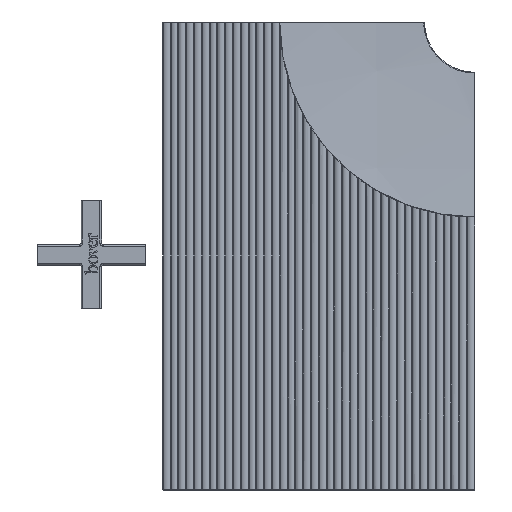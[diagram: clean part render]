
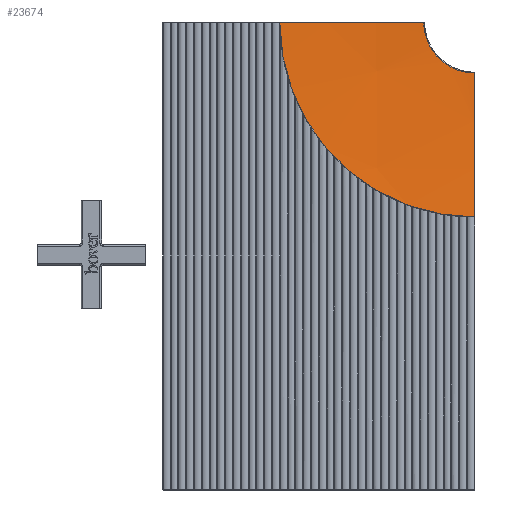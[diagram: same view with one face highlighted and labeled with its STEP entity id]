
A CAD part, front view. The second image highlights one B-rep face of the part: STEP entity #23674.
In plain terms, the highlighted spherical face has radius 715.727 mm.
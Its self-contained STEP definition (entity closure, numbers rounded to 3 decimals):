
#719 = DIRECTION ( 'NONE',  ( -1., 0., 0. ) ) ;
#1089 = ORIENTED_EDGE ( 'NONE', *, *, #32123, .T. ) ;
#1152 = CARTESIAN_POINT ( 'NONE',  ( -24.998, 15., -149.5 ) ) ;
#2652 = CARTESIAN_POINT ( 'NONE',  ( 70.678, 4.749, -135.312 ) ) ;
#2849 = CARTESIAN_POINT ( 'NONE',  ( 91.169, 4.749, -118.483 ) ) ;
#3048 = CARTESIAN_POINT ( 'NONE',  ( 74.07, 4.749, -130.026 ) ) ;
#3244 = CARTESIAN_POINT ( 'NONE',  ( 97.385, 4.749, -117.309 ) ) ;
#5162 = CARTESIAN_POINT ( 'NONE',  ( 99.5, 4.749, -117.277 ) ) ;
#5350 = FACE_OUTER_BOUND ( 'NONE', #16533, .T. ) ;
#5633 = CARTESIAN_POINT ( 'NONE',  ( 82.125, 4.749, -122.581 ) ) ;
#6027 = CARTESIAN_POINT ( 'NONE',  ( 90.664, 4.749, -118.628 ) ) ;
#7934 = CARTESIAN_POINT ( 'NONE',  ( 100., 15., -150.003 ) ) ;
#8610 = CARTESIAN_POINT ( 'NONE',  ( 83.475, 4.749, -121.746 ) ) ;
#8805 = CARTESIAN_POINT ( 'NONE',  ( 67.544, 4.749, -145.307 ) ) ;
#9204 = CARTESIAN_POINT ( 'NONE',  ( 74.397, 4.749, -129.609 ) ) ;
#9405 = CARTESIAN_POINT ( 'NONE',  ( 69.462, 4.749, -138.221 ) ) ;
#9517 = CARTESIAN_POINT ( 'NONE',  ( 99.5, 15., -25.005 ) ) ;
#9828 = EDGE_CURVE ( 'NONE', #31909, #38245, #38322, .T. ) ;
#10277 = EDGE_CURVE ( 'NONE', #23612, #38478, #38274, .T. ) ;
#10919 = DIRECTION ( 'NONE',  ( 0., 0., 1. ) ) ;
#11976 = CARTESIAN_POINT ( 'NONE',  ( 99.5, 4.749, -117.277 ) ) ;
#12177 = CARTESIAN_POINT ( 'NONE',  ( 73.44, 4.749, -130.871 ) ) ;
#12677 = ORIENTED_EDGE ( 'NONE', *, *, #9828, .T. ) ;
#13683 = DIRECTION ( 'NONE',  ( 0., 1., 0. ) ) ;
#13969 = DIRECTION ( 'NONE',  ( 0., 0., -1. ) ) ;
#14084 = DIRECTION ( 'NONE',  ( 1., 0., 0. ) ) ;
#14538 = ORIENTED_EDGE ( 'NONE', *, *, #15986, .T. ) ;
#14743 = CARTESIAN_POINT ( 'NONE',  ( 76.111, 4.749, -127.607 ) ) ;
#14937 = CARTESIAN_POINT ( 'NONE',  ( 75.404, 4.749, -128.384 ) ) ;
#15594 = AXIS2_PLACEMENT_3D ( 'NONE', #38134, #14084, #10919 ) ;
#15986 = EDGE_CURVE ( 'NONE', #38245, #23612, #17207, .T. ) ;
#16533 = EDGE_LOOP ( 'NONE', ( #27659, #1089, #12677, #14538 ) ) ;
#16563 = CARTESIAN_POINT ( 'NONE',  ( 99.5, 719.727, -150.003 ) ) ;
#17207 = CIRCLE ( 'NONE', #33043, 715.727 ) ;
#18120 = CARTESIAN_POINT ( 'NONE',  ( 79.941, 4.749, -124.055 ) ) ;
#18323 = CARTESIAN_POINT ( 'NONE',  ( 92.188, 4.749, -118.215 ) ) ;
#18523 = CARTESIAN_POINT ( 'NONE',  ( 95.292, 4.749, -117.544 ) ) ;
#20029 = DIRECTION ( 'NONE',  ( 0., 0., 1. ) ) ;
#20699 = CARTESIAN_POINT ( 'NONE',  ( 89.164, 4.749, -119.101 ) ) ;
#21083 = CARTESIAN_POINT ( 'NONE',  ( 92.704, 4.749, -118.092 ) ) ;
#21492 = CARTESIAN_POINT ( 'NONE',  ( 78.329, 4.749, -125.386 ) ) ;
#22722 = AXIS2_PLACEMENT_3D ( 'NONE', #33876, #27334, #719 ) ;
#23612 = VERTEX_POINT ( 'NONE', #5162 ) ;
#23674 = ADVANCED_FACE ( 'NONE', ( #5350 ), #38712, .F. ) ;
#24473 = CARTESIAN_POINT ( 'NONE',  ( 71.673, 4.749, -133.475 ) ) ;
#24622 = CIRCLE ( 'NONE', #22722, 715.727 ) ;
#26866 = CARTESIAN_POINT ( 'NONE',  ( 68.926, 4.749, -139.715 ) ) ;
#27268 = CARTESIAN_POINT ( 'NONE',  ( 85.317, 4.749, -120.732 ) ) ;
#27334 = DIRECTION ( 'NONE',  ( 0., 0., -1. ) ) ;
#27467 = CARTESIAN_POINT ( 'NONE',  ( 68.189, 4.749, -142.239 ) ) ;
#27659 = ORIENTED_EDGE ( 'NONE', *, *, #10277, .T. ) ;
#27672 = CARTESIAN_POINT ( 'NONE',  ( 73.136, 4.749, -131.3 ) ) ;
#28681 = DIRECTION ( 'NONE',  ( 1., 0., 0. ) ) ;
#30251 = CARTESIAN_POINT ( 'NONE',  ( 82.571, 4.749, -122.295 ) ) ;
#30450 = CARTESIAN_POINT ( 'NONE',  ( 67.309, 4.749, -147.387 ) ) ;
#30647 = CARTESIAN_POINT ( 'NONE',  ( 69.655, 4.749, -137.731 ) ) ;
#31909 = VERTEX_POINT ( 'NONE', #1152 ) ;
#32123 = EDGE_CURVE ( 'NONE', #38478, #31909, #24622, .T. ) ;
#32827 = CARTESIAN_POINT ( 'NONE',  ( 83.932, 4.749, -121.484 ) ) ;
#33043 = AXIS2_PLACEMENT_3D ( 'NONE', #16563, #28681, #13969 ) ;
#33224 = CARTESIAN_POINT ( 'NONE',  ( 67.277, 4.749, -149.5 ) ) ;
#33286 = CARTESIAN_POINT ( 'NONE',  ( 67.277, 4.749, -149.5 ) ) ;
#33876 = CARTESIAN_POINT ( 'NONE',  ( 100., 719.727, -149.5 ) ) ;
#35809 = CARTESIAN_POINT ( 'NONE',  ( 86.26, 4.749, -120.278 ) ) ;
#35998 = CARTESIAN_POINT ( 'NONE',  ( 69.097, 4.749, -139.213 ) ) ;
#36399 = CARTESIAN_POINT ( 'NONE',  ( 68.454, 4.749, -141.224 ) ) ;
#36602 = CARTESIAN_POINT ( 'NONE',  ( 88.184, 4.749, -119.463 ) ) ;
#37042 = AXIS2_PLACEMENT_3D ( 'NONE', #7934, #13683, #20029 ) ;
#38134 = CARTESIAN_POINT ( 'NONE',  ( 100., 719.727, -150.003 ) ) ;
#38245 = VERTEX_POINT ( 'NONE', #9517 ) ;
#38274 = B_SPLINE_CURVE_WITH_KNOTS ( 'NONE', 3,
 ( #11976, #3244, #18523, #21083, #18323, #2849, #6027, #20699, #36602, #35809, #27268, #32827, #8610, #30251, #5633, #18120, #21492, #14743, #14937, #9204, #3048, #12177, #27672, #24473, #2652, #30647, #9405, #35998, #26866, #36399, #27467, #8805, #30450, #33224 ),
 .UNSPECIFIED., .F., .F.,
 ( 4, 2, 2, 2, 2, 2, 2, 2, 2, 2, 2, 2, 2, 2, 2, 2, 4 ),
 ( 0., 0.007, 0.008, 0.01, 0.013, 0.016, 0.018, 0.019, 0.026, 0.029, 0.031, 0.032, 0.038, 0.04, 0.042, 0.045, 0.051 ),
 .UNSPECIFIED. ) ;
#38322 = CIRCLE ( 'NONE', #37042, 124.999 ) ;
#38478 = VERTEX_POINT ( 'NONE', #33286 ) ;
#38712 = SPHERICAL_SURFACE ( 'NONE', #15594, 715.727 ) ;
